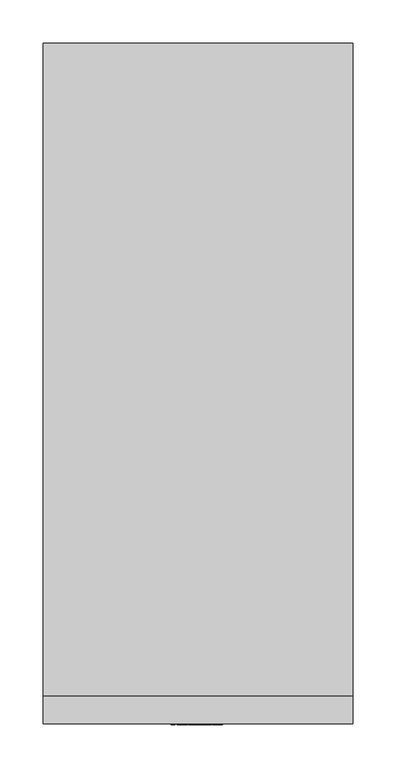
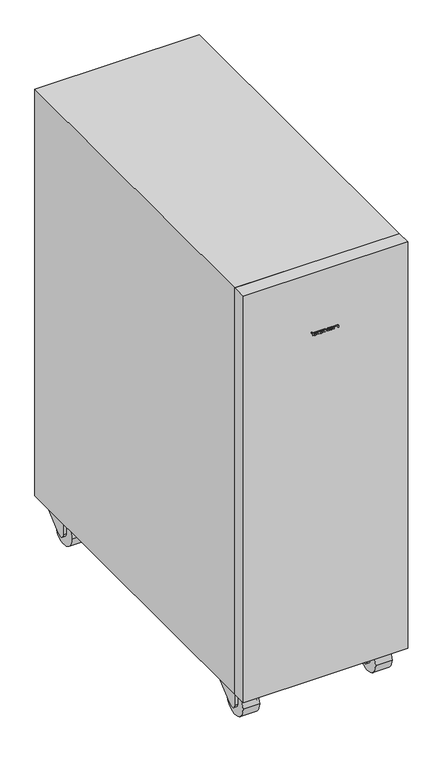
"""IFC4 building model written with IfcOpenShell, lengths in millimetres: proxy geometry, IPPON_ИБП_Innova RT 33 Tower_20000_40000_60000_80000ВА : Innova RT 33 Tower 60000 ВА."""

from ifc_helpers import new_model, si_unit, point, frame, frame_2d, origin, place, context, project, spatial, polyline, circle_curve, trimmed, segment, composite_curve, outline, extrude, source, transform, mapped, element, save
from ifc_brep_helpers import plane_surface, cylinder_surface, advanced_brep


def electrical_equipment_517d518b(model_context):
    return source(origin(), model_context, "Body", "SolidModel", [
        extrude(outline(polyline([(-29.1718133, -1.0), (-31.1718133, -1.0), (-31.1718133, 0.0), (-29.1718133, 0.0), (-29.1718133, -1.0)])), frame((0.0, 0.0, 872.4695835), z_axis=(0.0, 0.0, 1.0), x_axis=(1.0, 0.0, 0.0)), (0.0, 0.0, 1.0), 2.3),
        extrude(outline(polyline([(18.6035474, -1.0), (16.6035474, -1.0), (16.6035474, 0.0), (18.6035474, 0.0), (18.6035474, -1.0)])), frame((0.0, 0.0, 866.4695835), z_axis=(0.0, 0.0, 1.0), x_axis=(1.0, 0.0, 0.0)), (0.0, 0.0, 1.0), 2.2268231),
        extrude(outline(polyline([(-26.438565, -1.0), (-28.4833324, -1.0), (-28.4833324, 0.0), (-26.438565, 0.0), (-26.438565, -1.0)])), frame((0.0, 0.0, 866.4695835), z_axis=(0.0, 0.0, 1.0), x_axis=(1.0, 0.0, 0.0)), (0.0, 0.0, 1.0), 6.0),
        extrude(outline(composite_curve([segment(polyline([(870.2071435, -24.2241109), (870.2071435, -14.9923536)]), True, "CONTINUOUS"), segment(trimmed(circle_curve(frame_2d((869.3506642, -14.9923536)), 0.8564793), [point((870.2071435, -14.9923536))], [point((868.4941849, -14.9923536))], True, "CARTESIAN"), True, "CONTINUOUS"), segment(polyline([(868.4941849, -14.9923536), (868.4941849, -24.2241109), (865.0036803, -24.2241109), (865.0036803, -22.2241109), (866.4695835, -22.2241109), (866.4695835, -15.1486036)]), True, "CONTINUOUS"), segment(trimmed(circle_curve(frame_2d((869.4695835, -15.1486036)), 3.0), [point((866.4695835, -15.1486036))], [point((872.4695835, -15.1486036))], False, "CARTESIAN"), True, "CONTINUOUS"), segment(polyline([(872.4695835, -15.1486036), (872.4695835, -24.2241109), (870.2071435, -24.2241109)]), True, "CONTINUOUS")], self_intersect=False)), frame((0.0, -1.0, 0.0), z_axis=(0.0, 1.0, 0.0), x_axis=(0.0, 0.0, 1.0)), (0.0, 0.0, 1.0), 1.0),
        extrude(outline(composite_curve([segment(polyline([(870.2071435, -11.0171091), (870.2071435, -1.7853518)]), True, "CONTINUOUS"), segment(trimmed(circle_curve(frame_2d((869.3506642, -1.7853518)), 0.8564793), [point((870.2071435, -1.7853518))], [point((868.4941849, -1.7853518))], True, "CARTESIAN"), True, "CONTINUOUS"), segment(polyline([(868.4941849, -1.7853518), (868.4941849, -11.0171091), (865.0036803, -11.0171091), (865.0036803, -9.0171091), (866.4695835, -9.0171091), (866.4695835, -1.9416018)]), True, "CONTINUOUS"), segment(trimmed(circle_curve(frame_2d((869.4695835, -1.9416018)), 3.0), [point((866.4695835, -1.9416018))], [point((872.4695835, -1.9416018))], False, "CARTESIAN"), True, "CONTINUOUS"), segment(polyline([(872.4695835, -1.9416018), (872.4695835, -11.0171091), (870.2071435, -11.0171091)]), True, "CONTINUOUS")], self_intersect=False)), frame((0.0, -1.0, 0.0), z_axis=(0.0, 1.0, 0.0), x_axis=(0.0, 0.0, 1.0)), (0.0, 0.0, 1.0), 1.0),
        extrude(outline(composite_curve([segment(trimmed(circle_curve(frame_2d((869.4695835, 12.558657)), 3.0), [point((866.4695835, 12.558657))], [point((872.4695835, 12.558657))], False, "CARTESIAN"), True, "CONTINUOUS"), segment(polyline([(872.4695835, 12.558657), (872.4695835, 4.958657)]), True, "CONTINUOUS"), segment(trimmed(circle_curve(frame_2d((869.4695835, 4.958657)), 3.0), [point((872.4695835, 4.958657))], [point((866.4695835, 4.958657))], False, "CARTESIAN"), True, "CONTINUOUS"), segment(polyline([(866.4695835, 4.958657), (866.4695835, 12.558657)]), True, "CONTINUOUS")], self_intersect=False), holes=[composite_curve([segment(polyline([(868.4941849, 12.714907), (868.4941849, 4.802407)]), True, "CONTINUOUS"), segment(trimmed(circle_curve(frame_2d((869.3506642, 4.802407)), 0.8564793), [point((868.4941849, 4.802407))], [point((870.2071435, 4.802407))], True, "CARTESIAN"), True, "CONTINUOUS"), segment(polyline([(870.2071435, 4.802407), (870.2071435, 12.714907)]), True, "CONTINUOUS"), segment(trimmed(circle_curve(frame_2d((869.3506642, 12.714907)), 0.8564793), [point((870.2071435, 12.714907))], [point((868.4941849, 12.714907))], True, "CARTESIAN"), True, "CONTINUOUS")], self_intersect=False)]), frame((0.0, -1.0, 0.0), z_axis=(0.0, 1.0, 0.0), x_axis=(0.0, 0.0, 1.0)), (0.0, 0.0, 1.0), 1.0),
        extrude(outline(composite_curve([segment(polyline([(870.2071435, 16.6035474), (870.2071435, 25.8353046)]), True, "CONTINUOUS"), segment(trimmed(circle_curve(frame_2d((869.3506642, 25.8353046)), 0.8564793), [point((870.2071435, 25.8353046))], [point((869.3506642, 26.6917839))], True, "CARTESIAN"), True, "CONTINUOUS"), segment(polyline([(869.3506642, 26.6917839), (866.4695835, 26.6917839), (866.4695835, 28.6317921), (870.0, 28.6317921)]), True, "CONTINUOUS"), segment(trimmed(circle_curve(frame_2d((869.4695835, 25.6790546)), 3.0), [point((870.0, 28.6317921))], [point((872.4695835, 25.6790546))], False, "CARTESIAN"), True, "CONTINUOUS"), segment(polyline([(872.4695835, 25.6790546), (872.4695835, 16.6035474), (870.2071435, 16.6035474)]), True, "CONTINUOUS")], self_intersect=False)), frame((0.0, -1.0, 0.0), z_axis=(0.0, 1.0, 0.0), x_axis=(0.0, 0.0, 1.0)), (0.0, 0.0, 1.0), 1.0),
        advanced_brep(
        [(-163.0, 740.0, 30.0), (-163.0, 680.0, 30.0), (-163.0, 700.0, 58.2842712), (-163.0, 700.0, 30.0), (-163.0, 718.2371094, 24.3299005), (-163.0, 737.8711425, 41.0995231), (-127.0, 680.0, 30.0), (-127.0, 740.0, 30.0), (-127.0, 737.8711425, 41.0995231), (-127.0, 718.2371094, 24.3299005), (-127.0, 700.0, 30.0), (-127.0, 700.0, 58.2842712), (-170.0, 700.0, 30.0), (-170.0, 700.0, 70.0), (-170.0, 760.0, 70.0), (-170.0, 760.0, 60.0), (-170.0, 718.2371094, 24.3299005), (-120.0, 700.0, 30.0), (-120.0, 718.2371094, 24.3299005), (-120.0, 760.0, 60.0), (-120.0, 760.0, 70.0), (-120.0, 700.0, 70.0)],
        [
            (0, 1, circle_curve(frame((-163.0, 710.0, 30.0), z_axis=(-1.0, 0.0, 0.0), x_axis=(0.0, -1.0, 0.0)), 30.0)),
            (1, 2, circle_curve(frame((-163.0, 710.0, 30.0), z_axis=(-1.0, 0.0, 0.0), x_axis=(0.0, -1.0, 0.0)), 30.0)),
            (2, 3),
            (3, 4, circle_curve(frame((-163.0, 710.0, 30.0), z_axis=(1.0, 0.0, 0.0), x_axis=(0.0, -1.0, 0.0)), 10.0)),
            (4, 5),
            (5, 0, circle_curve(frame((-163.0, 710.0, 30.0), z_axis=(-1.0, 0.0, 0.0), x_axis=(0.0, -1.0, 0.0)), 30.0)),
            (6, 7, circle_curve(frame((-127.0, 710.0, 30.0), z_axis=(1.0, 0.0, 0.0), x_axis=(0.0, -1.0, 0.0)), 30.0)),
            (7, 8, circle_curve(frame((-127.0, 710.0, 30.0), z_axis=(1.0, 0.0, 0.0), x_axis=(0.0, -1.0, 0.0)), 30.0)),
            (8, 9),
            (9, 10, circle_curve(frame((-127.0, 710.0, 30.0), z_axis=(-1.0, 0.0, 0.0), x_axis=(0.0, -1.0, 0.0)), 10.0)),
            (10, 11),
            (11, 6, circle_curve(frame((-127.0, 710.0, 30.0), z_axis=(1.0, 0.0, 0.0), x_axis=(0.0, -1.0, 0.0)), 30.0)),
            (0, 7),
            (6, 1),
            (5, 8),
            (11, 2),
            (12, 13),
            (13, 14),
            (14, 15),
            (15, 16),
            (16, 12, circle_curve(frame((-170.0, 710.0, 30.0), z_axis=(-1.0, 0.0, 0.0), x_axis=(0.0, -1.0, 0.0)), 10.0)),
            (17, 18, circle_curve(frame((-120.0, 710.0, 30.0), z_axis=(1.0, 0.0, 0.0), x_axis=(0.0, -1.0, 0.0)), 10.0)),
            (18, 19),
            (19, 20),
            (20, 21),
            (21, 17),
            (12, 3),
            (10, 17),
            (21, 13),
            (20, 14),
            (19, 15),
            (18, 9),
            (4, 16),
        ],
        [
            plane_surface(frame((-163.0, 680.0, 30.0), z_axis=(-1.0, 0.0, 0.0), x_axis=(0.0, 0.0, 1.0))),
            plane_surface(frame((-127.0, 680.0, 30.0), z_axis=(1.0, 0.0, 0.0), x_axis=(0.0, 0.0, -1.0))),
            cylinder_surface(frame((-127.0, 710.0, 30.0), z_axis=(-1.0, 0.0, 0.0), x_axis=(0.0, -1.0, 0.0)), 30.0),
            plane_surface(frame((-170.0, 700.0, 70.0), z_axis=(-1.0, 0.0, 0.0), x_axis=(0.0, 0.0, 1.0))),
            plane_surface(frame((-120.0, 700.0, 70.0), z_axis=(1.0, 0.0, 0.0), x_axis=(0.0, 0.0, -1.0))),
            plane_surface(frame((-170.0, 700.0, 30.0), z_axis=(0.0, -1.0, 0.0), x_axis=(1.0, 0.0, 0.0))),
            plane_surface(frame((-170.0, 700.0, 70.0), z_axis=(0.0, 0.0, 1.0), x_axis=(1.0, 0.0, 0.0))),
            plane_surface(frame((-170.0, 760.0, 70.0), z_axis=(0.0, 1.0, 0.0), x_axis=(1.0, 0.0, 0.0))),
            plane_surface(frame((-170.0, 760.0, 60.0), z_axis=(0.0, 0.6494609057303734, -0.7603949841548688), x_axis=(1.0, 0.0, 0.0))),
            cylinder_surface(frame((-120.0, 710.0, 30.0), z_axis=(-1.0, 0.0, 0.0), x_axis=(0.0, -1.0, 0.0)), 10.0),
        ],
        [
            (0, [[1, 2, 3, 4, 5, 6]]),
            (1, [[7, 8, 9, 10, 11, 12]]),
            (2, [[-1, 13, -7, 14]]),
            (2, [[-13, -6, 15, -8]]),
            (2, [[-14, -12, 16, -2]]),
            (3, [[17, 18, 19, 20, 21]]),
            (4, [[22, 23, 24, 25, 26]]),
            (5, [[-17, 27, -3, -16, -11, 28, -26, 29]]),
            (6, [[-18, -29, -25, 30]]),
            (7, [[-19, -30, -24, 31]]),
            (8, [[-20, -31, -23, 32, -9, -15, -5, 33]]),
            (9, [[-21, -33, -4, -27]]),
            (9, [[-22, -28, -10, -32]]),
        ],
    ),
        advanced_brep(
        [(127.0, 740.0, 30.0), (127.0, 680.0, 30.0), (127.0, 700.0, 58.2842712), (127.0, 700.0, 30.0), (127.0, 718.2371094, 24.3299005), (127.0, 737.8711425, 41.0995231), (163.0, 680.0, 30.0), (163.0, 740.0, 30.0), (163.0, 737.8711425, 41.0995231), (163.0, 718.2371094, 24.3299005), (163.0, 700.0, 30.0), (163.0, 700.0, 58.2842712), (120.0, 700.0, 30.0), (120.0, 700.0, 70.0), (120.0, 760.0, 70.0), (120.0, 760.0, 60.0), (120.0, 718.2371094, 24.3299005), (170.0, 700.0, 30.0), (170.0, 718.2371094, 24.3299005), (170.0, 760.0, 60.0), (170.0, 760.0, 70.0), (170.0, 700.0, 70.0)],
        [
            (0, 1, circle_curve(frame((127.0, 710.0, 30.0), z_axis=(-1.0, 0.0, 0.0), x_axis=(0.0, -1.0, 0.0)), 30.0)),
            (1, 2, circle_curve(frame((127.0, 710.0, 30.0), z_axis=(-1.0, 0.0, 0.0), x_axis=(0.0, -1.0, 0.0)), 30.0)),
            (2, 3),
            (3, 4, circle_curve(frame((127.0, 710.0, 30.0), z_axis=(1.0, 0.0, 0.0), x_axis=(0.0, -1.0, 0.0)), 10.0)),
            (4, 5),
            (5, 0, circle_curve(frame((127.0, 710.0, 30.0), z_axis=(-1.0, 0.0, 0.0), x_axis=(0.0, -1.0, 0.0)), 30.0)),
            (6, 7, circle_curve(frame((163.0, 710.0, 30.0), z_axis=(1.0, 0.0, 0.0), x_axis=(0.0, -1.0, 0.0)), 30.0)),
            (7, 8, circle_curve(frame((163.0, 710.0, 30.0), z_axis=(1.0, 0.0, 0.0), x_axis=(0.0, -1.0, 0.0)), 30.0)),
            (8, 9),
            (9, 10, circle_curve(frame((163.0, 710.0, 30.0), z_axis=(-1.0, 0.0, 0.0), x_axis=(0.0, -1.0, 0.0)), 10.0)),
            (10, 11),
            (11, 6, circle_curve(frame((163.0, 710.0, 30.0), z_axis=(1.0, 0.0, 0.0), x_axis=(0.0, -1.0, 0.0)), 30.0)),
            (0, 7),
            (6, 1),
            (5, 8),
            (11, 2),
            (12, 13),
            (13, 14),
            (14, 15),
            (15, 16),
            (16, 12, circle_curve(frame((120.0, 710.0, 30.0), z_axis=(-1.0, 0.0, 0.0), x_axis=(0.0, -1.0, 0.0)), 10.0)),
            (17, 18, circle_curve(frame((170.0, 710.0, 30.0), z_axis=(1.0, 0.0, 0.0), x_axis=(0.0, -1.0, 0.0)), 10.0)),
            (18, 19),
            (19, 20),
            (20, 21),
            (21, 17),
            (12, 3),
            (10, 17),
            (21, 13),
            (20, 14),
            (19, 15),
            (18, 9),
            (4, 16),
        ],
        [
            plane_surface(frame((127.0, 680.0, 30.0), z_axis=(-1.0, 0.0, 0.0), x_axis=(0.0, 0.0, 1.0))),
            plane_surface(frame((163.0, 680.0, 30.0), z_axis=(1.0, 0.0, 0.0), x_axis=(0.0, 0.0, -1.0))),
            cylinder_surface(frame((163.0, 710.0, 30.0), z_axis=(-1.0, 0.0, 0.0), x_axis=(0.0, -1.0, 0.0)), 30.0),
            plane_surface(frame((120.0, 700.0, 70.0), z_axis=(-1.0, 0.0, 0.0), x_axis=(0.0, 0.0, 1.0))),
            plane_surface(frame((170.0, 700.0, 70.0), z_axis=(1.0, 0.0, 0.0), x_axis=(0.0, 0.0, -1.0))),
            plane_surface(frame((120.0, 700.0, 30.0), z_axis=(0.0, -1.0, 0.0), x_axis=(1.0, 0.0, 0.0))),
            plane_surface(frame((120.0, 700.0, 70.0), z_axis=(0.0, 0.0, 1.0), x_axis=(1.0, 0.0, 0.0))),
            plane_surface(frame((120.0, 760.0, 70.0), z_axis=(0.0, 1.0, 0.0), x_axis=(1.0, 0.0, 0.0))),
            plane_surface(frame((120.0, 760.0, 60.0), z_axis=(0.0, 0.6494609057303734, -0.7603949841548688), x_axis=(1.0, 0.0, 0.0))),
            cylinder_surface(frame((170.0, 710.0, 30.0), z_axis=(-1.0, 0.0, 0.0), x_axis=(0.0, -1.0, 0.0)), 10.0),
        ],
        [
            (0, [[1, 2, 3, 4, 5, 6]]),
            (1, [[7, 8, 9, 10, 11, 12]]),
            (2, [[-1, 13, -7, 14]]),
            (2, [[-13, -6, 15, -8]]),
            (2, [[-14, -12, 16, -2]]),
            (3, [[17, 18, 19, 20, 21]]),
            (4, [[22, 23, 24, 25, 26]]),
            (5, [[-17, 27, -3, -16, -11, 28, -26, 29]]),
            (6, [[-18, -29, -25, 30]]),
            (7, [[-19, -30, -24, 31]]),
            (8, [[-20, -31, -23, 32, -9, -15, -5, 33]]),
            (9, [[-21, -33, -4, -27]]),
            (9, [[-22, -28, -10, -32]]),
        ],
    ),
        advanced_brep(
        [(-163.0, 90.0, 30.0), (-163.0, 30.0, 30.0), (-163.0, 50.0, 58.2842712), (-163.0, 50.0, 30.0), (-163.0, 68.2371094, 24.3299005), (-163.0, 87.8711425, 41.0995231), (-127.0, 30.0, 30.0), (-127.0, 90.0, 30.0), (-127.0, 87.8711425, 41.0995231), (-127.0, 68.2371094, 24.3299005), (-127.0, 50.0, 30.0), (-127.0, 50.0, 58.2842712), (-170.0, 50.0, 30.0), (-170.0, 50.0, 70.0), (-170.0, 110.0, 70.0), (-170.0, 110.0, 60.0), (-170.0, 68.2371094, 24.3299005), (-120.0, 50.0, 30.0), (-120.0, 68.2371094, 24.3299005), (-120.0, 110.0, 60.0), (-120.0, 110.0, 70.0), (-120.0, 50.0, 70.0)],
        [
            (0, 1, circle_curve(frame((-163.0, 60.0, 30.0), z_axis=(-1.0, 0.0, 0.0), x_axis=(0.0, -1.0, 0.0)), 30.0)),
            (1, 2, circle_curve(frame((-163.0, 60.0, 30.0), z_axis=(-1.0, 0.0, 0.0), x_axis=(0.0, -1.0, 0.0)), 30.0)),
            (2, 3),
            (3, 4, circle_curve(frame((-163.0, 60.0, 30.0), z_axis=(1.0, 0.0, 0.0), x_axis=(0.0, -1.0, 0.0)), 10.0)),
            (4, 5),
            (5, 0, circle_curve(frame((-163.0, 60.0, 30.0), z_axis=(-1.0, 0.0, 0.0), x_axis=(0.0, -1.0, 0.0)), 30.0)),
            (6, 7, circle_curve(frame((-127.0, 60.0, 30.0), z_axis=(1.0, 0.0, 0.0), x_axis=(0.0, -1.0, 0.0)), 30.0)),
            (7, 8, circle_curve(frame((-127.0, 60.0, 30.0), z_axis=(1.0, 0.0, 0.0), x_axis=(0.0, -1.0, 0.0)), 30.0)),
            (8, 9),
            (9, 10, circle_curve(frame((-127.0, 60.0, 30.0), z_axis=(-1.0, 0.0, 0.0), x_axis=(0.0, -1.0, 0.0)), 10.0)),
            (10, 11),
            (11, 6, circle_curve(frame((-127.0, 60.0, 30.0), z_axis=(1.0, 0.0, 0.0), x_axis=(0.0, -1.0, 0.0)), 30.0)),
            (0, 7),
            (6, 1),
            (5, 8),
            (11, 2),
            (12, 13),
            (13, 14),
            (14, 15),
            (15, 16),
            (16, 12, circle_curve(frame((-170.0, 60.0, 30.0), z_axis=(-1.0, 0.0, 0.0), x_axis=(0.0, -1.0, 0.0)), 10.0)),
            (17, 18, circle_curve(frame((-120.0, 60.0, 30.0), z_axis=(1.0, 0.0, 0.0), x_axis=(0.0, -1.0, 0.0)), 10.0)),
            (18, 19),
            (19, 20),
            (20, 21),
            (21, 17),
            (12, 3),
            (10, 17),
            (21, 13),
            (20, 14),
            (19, 15),
            (18, 9),
            (4, 16),
        ],
        [
            plane_surface(frame((-163.0, 30.0, 30.0), z_axis=(-1.0, 0.0, 0.0), x_axis=(0.0, 0.0, 1.0))),
            plane_surface(frame((-127.0, 30.0, 30.0), z_axis=(1.0, 0.0, 0.0), x_axis=(0.0, 0.0, -1.0))),
            cylinder_surface(frame((-127.0, 60.0, 30.0), z_axis=(-1.0, 0.0, 0.0), x_axis=(0.0, -1.0, 0.0)), 30.0),
            plane_surface(frame((-170.0, 50.0, 70.0), z_axis=(-1.0, 0.0, 0.0), x_axis=(0.0, 0.0, 1.0))),
            plane_surface(frame((-120.0, 50.0, 70.0), z_axis=(1.0, 0.0, 0.0), x_axis=(0.0, 0.0, -1.0))),
            plane_surface(frame((-170.0, 50.0, 30.0), z_axis=(0.0, -1.0, 0.0), x_axis=(1.0, 0.0, 0.0))),
            plane_surface(frame((-170.0, 50.0, 70.0), z_axis=(0.0, 0.0, 1.0), x_axis=(1.0, 0.0, 0.0))),
            plane_surface(frame((-170.0, 110.0, 70.0), z_axis=(0.0, 1.0, 0.0), x_axis=(1.0, 0.0, 0.0))),
            plane_surface(frame((-170.0, 110.0, 60.0), z_axis=(0.0, 0.6494609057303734, -0.7603949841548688), x_axis=(1.0, 0.0, 0.0))),
            cylinder_surface(frame((-120.0, 60.0, 30.0), z_axis=(-1.0, 0.0, 0.0), x_axis=(0.0, -1.0, 0.0)), 10.0),
        ],
        [
            (0, [[1, 2, 3, 4, 5, 6]]),
            (1, [[7, 8, 9, 10, 11, 12]]),
            (2, [[-1, 13, -7, 14]]),
            (2, [[-13, -6, 15, -8]]),
            (2, [[-14, -12, 16, -2]]),
            (3, [[17, 18, 19, 20, 21]]),
            (4, [[22, 23, 24, 25, 26]]),
            (5, [[-17, 27, -3, -16, -11, 28, -26, 29]]),
            (6, [[-18, -29, -25, 30]]),
            (7, [[-19, -30, -24, 31]]),
            (8, [[-20, -31, -23, 32, -9, -15, -5, 33]]),
            (9, [[-21, -33, -4, -27]]),
            (9, [[-22, -28, -10, -32]]),
        ],
    ),
        advanced_brep(
        [(127.0, 90.0, 30.0), (127.0, 30.0, 30.0), (127.0, 50.0, 58.2842712), (127.0, 50.0, 30.0), (127.0, 68.2371094, 24.3299005), (127.0, 87.8711425, 41.0995231), (163.0, 30.0, 30.0), (163.0, 90.0, 30.0), (163.0, 87.8711425, 41.0995231), (163.0, 68.2371094, 24.3299005), (163.0, 50.0, 30.0), (163.0, 50.0, 58.2842712), (120.0, 50.0, 30.0), (120.0, 50.0, 70.0), (120.0, 110.0, 70.0), (120.0, 110.0, 60.0), (120.0, 68.2371094, 24.3299005), (170.0, 50.0, 30.0), (170.0, 68.2371094, 24.3299005), (170.0, 110.0, 60.0), (170.0, 110.0, 70.0), (170.0, 50.0, 70.0)],
        [
            (0, 1, circle_curve(frame((127.0, 60.0, 30.0), z_axis=(-1.0, 0.0, 0.0), x_axis=(0.0, -1.0, 0.0)), 30.0)),
            (1, 2, circle_curve(frame((127.0, 60.0, 30.0), z_axis=(-1.0, 0.0, 0.0), x_axis=(0.0, -1.0, 0.0)), 30.0)),
            (2, 3),
            (3, 4, circle_curve(frame((127.0, 60.0, 30.0), z_axis=(1.0, 0.0, 0.0), x_axis=(0.0, -1.0, 0.0)), 10.0)),
            (4, 5),
            (5, 0, circle_curve(frame((127.0, 60.0, 30.0), z_axis=(-1.0, 0.0, 0.0), x_axis=(0.0, -1.0, 0.0)), 30.0)),
            (6, 7, circle_curve(frame((163.0, 60.0, 30.0), z_axis=(1.0, 0.0, 0.0), x_axis=(0.0, -1.0, 0.0)), 30.0)),
            (7, 8, circle_curve(frame((163.0, 60.0, 30.0), z_axis=(1.0, 0.0, 0.0), x_axis=(0.0, -1.0, 0.0)), 30.0)),
            (8, 9),
            (9, 10, circle_curve(frame((163.0, 60.0, 30.0), z_axis=(-1.0, 0.0, 0.0), x_axis=(0.0, -1.0, 0.0)), 10.0)),
            (10, 11),
            (11, 6, circle_curve(frame((163.0, 60.0, 30.0), z_axis=(1.0, 0.0, 0.0), x_axis=(0.0, -1.0, 0.0)), 30.0)),
            (0, 7),
            (6, 1),
            (5, 8),
            (11, 2),
            (12, 13),
            (13, 14),
            (14, 15),
            (15, 16),
            (16, 12, circle_curve(frame((120.0, 60.0, 30.0), z_axis=(-1.0, 0.0, 0.0), x_axis=(0.0, -1.0, 0.0)), 10.0)),
            (17, 18, circle_curve(frame((170.0, 60.0, 30.0), z_axis=(1.0, 0.0, 0.0), x_axis=(0.0, -1.0, 0.0)), 10.0)),
            (18, 19),
            (19, 20),
            (20, 21),
            (21, 17),
            (12, 3),
            (10, 17),
            (21, 13),
            (20, 14),
            (19, 15),
            (18, 9),
            (4, 16),
        ],
        [
            plane_surface(frame((127.0, 30.0, 30.0), z_axis=(-1.0, 0.0, 0.0), x_axis=(0.0, 0.0, 1.0))),
            plane_surface(frame((163.0, 30.0, 30.0), z_axis=(1.0, 0.0, 0.0), x_axis=(0.0, 0.0, -1.0))),
            cylinder_surface(frame((163.0, 60.0, 30.0), z_axis=(-1.0, 0.0, 0.0), x_axis=(0.0, -1.0, 0.0)), 30.0),
            plane_surface(frame((120.0, 50.0, 70.0), z_axis=(-1.0, 0.0, 0.0), x_axis=(0.0, 0.0, 1.0))),
            plane_surface(frame((170.0, 50.0, 70.0), z_axis=(1.0, 0.0, 0.0), x_axis=(0.0, 0.0, -1.0))),
            plane_surface(frame((120.0, 50.0, 30.0), z_axis=(0.0, -1.0, 0.0), x_axis=(1.0, 0.0, 0.0))),
            plane_surface(frame((120.0, 50.0, 70.0), z_axis=(0.0, 0.0, 1.0), x_axis=(1.0, 0.0, 0.0))),
            plane_surface(frame((120.0, 110.0, 70.0), z_axis=(0.0, 1.0, 0.0), x_axis=(1.0, 0.0, 0.0))),
            plane_surface(frame((120.0, 110.0, 60.0), z_axis=(0.0, 0.6494609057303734, -0.7603949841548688), x_axis=(1.0, 0.0, 0.0))),
            cylinder_surface(frame((170.0, 60.0, 30.0), z_axis=(-1.0, 0.0, 0.0), x_axis=(0.0, -1.0, 0.0)), 10.0),
        ],
        [
            (0, [[1, 2, 3, 4, 5, 6]]),
            (1, [[7, 8, 9, 10, 11, 12]]),
            (2, [[-1, 13, -7, 14]]),
            (2, [[-13, -6, 15, -8]]),
            (2, [[-14, -12, 16, -2]]),
            (3, [[17, 18, 19, 20, 21]]),
            (4, [[22, 23, 24, 25, 26]]),
            (5, [[-17, 27, -3, -16, -11, 28, -26, 29]]),
            (6, [[-18, -29, -25, 30]]),
            (7, [[-19, -30, -24, 31]]),
            (8, [[-20, -31, -23, 32, -9, -15, -5, 33]]),
            (9, [[-21, -33, -4, -27]]),
            (9, [[-22, -28, -10, -32]]),
        ],
    ),
        extrude(outline(polyline([(180.0, 0.0), (-180.0, 0.0), (-180.0, 32.0), (180.0, 32.0), (180.0, 0.0)])), frame((0.0, 0.0, 70.0), z_axis=(0.0, 0.0, 1.0), x_axis=(1.0, 0.0, 0.0)), (0.0, 0.0, 1.0), 940.0),
        extrude(outline(polyline([(180.0, 32.0), (-180.0, 32.0), (-180.0, 790.0), (180.0, 790.0), (180.0, 32.0)])), frame((0.0, 0.0, 70.0), z_axis=(0.0, 0.0, 1.0), x_axis=(1.0, 0.0, 0.0)), (0.0, 0.0, 1.0), 940.0),
    ])


if __name__ == "__main__":
    model = new_model("IFC4")
    model_context = context("Model", 3, world=origin())
    ifc_project = project(units=[si_unit("LENGTHUNIT", "METRE", prefix="MILLI")], contexts=[model_context])
    site = spatial("IfcSite", under=ifc_project)
    building = spatial("IfcBuilding", under=site)
    placement = place(None, origin())
    electrical_equipment_shape = electrical_equipment_517d518b(model_context)
    element("IfcBuildingElementProxy", 1, Name="IPPON_ИБП_Innova RT 33 Tower_20000_40000_60000_80000ВА : Innova RT 33 Tower 60000 ВА", ObjectType="IPPON_ИБП_Innova RT 33 Tower_20000_40000_60000_80000ВА : Innova RT 33 Tower 60000 ВА", at=placement, inside=building, context=model_context, shape_type="MappedRepresentation", body=[
        mapped(electrical_equipment_shape, transform((0.0, 0.0, 0.0), x_axis=(1.0, 0.0, 0.0), y_axis=(0.0, 1.0, 0.0), z_axis=(0.0, 0.0, 1.0))),
    ])
    save(model, "model.ifc")
